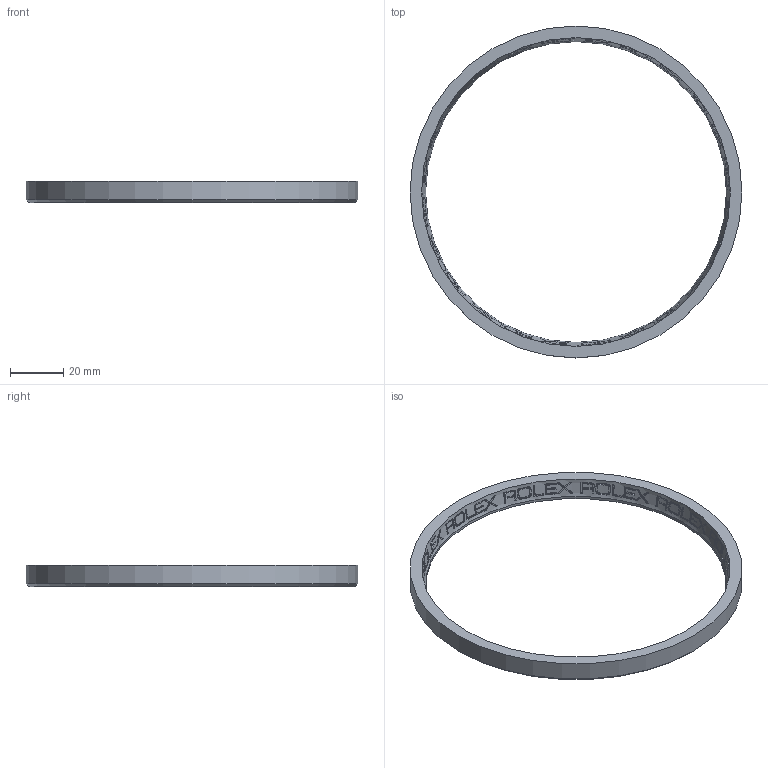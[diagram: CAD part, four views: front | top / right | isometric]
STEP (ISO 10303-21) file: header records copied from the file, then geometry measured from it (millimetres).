
FILE_DESCRIPTION(/* description */ ('STEP AP242','CAx-IF Rec.Pracs.---Representation and Presentation of Product Manufacturing Information (PMI)---4.0---2014-10-13','CAx-IF Rec.Pracs.---3D Tessellated Geometry---0.4---2014-09-14','2;1'),/* implementation_level */ '2;1');
FILE_NAME(/* name */ '66d372cf95d81402515f56e8',/* time_stamp */ '2024-08-31T19:45:29Z',/* author */ (''),/* organization */ (''),/* preprocessor_version */ 'ST-DEVELOPER v20',/* originating_system */ ' ',/* authorisation */ ' ');
FILE_SCHEMA (('AP242_MANAGED_MODEL_BASED_3D_ENGINEERING_MIM_LF { 1 0 10303 442 1 1 4 }'));
Products named in the file (1): bezelspacer
Bounding box: 124.72 x 124.72 x 8 mm (x, y, z)
Volume: 15347.9 mm3; surface area: 10097.1 mm2
Topology: 1 solids, 1 shells, 1590 faces, 4513 edges, 3008 vertices
Faces by surface type: bspline 648, plane 446, cylinder 410, cone 86
Full cylindrical faces by diameter (mm): 113 x1, 124.72 x1
Entity records: 56934 total; most frequent: CARTESIAN_POINT 23539, ORIENTED_EDGE 9012, EDGE_CURVE 4506, DIRECTION 3650, B_SPLINE_CURVE_WITH_KNOTS 3300, VERTEX_POINT 3006, EDGE_LOOP 1680, FACE_BOUND 1680
